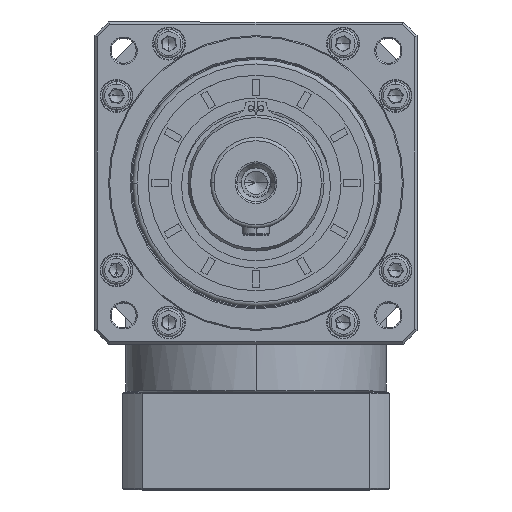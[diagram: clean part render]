
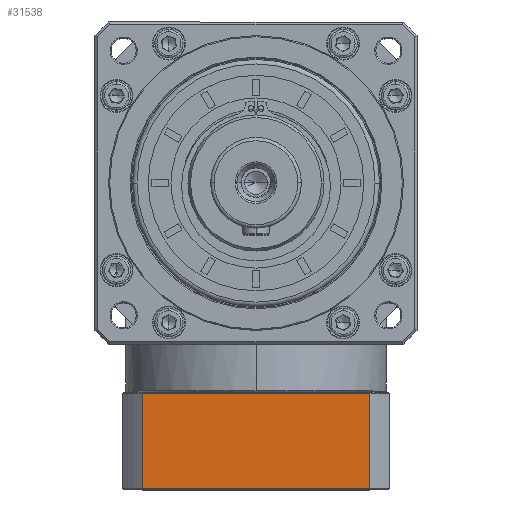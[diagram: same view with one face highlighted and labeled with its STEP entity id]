
A CAD part, top view. The second image highlights one B-rep face of the part: STEP entity #31538.
In plain terms, the highlighted planar face has unit normal (0, 0, 1).
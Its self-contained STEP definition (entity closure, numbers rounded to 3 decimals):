
#1443 = LINE ( 'NONE', #91648, #25766 ) ;
#19284 = ORIENTED_EDGE ( 'NONE', *, *, #21728, .F. ) ;
#21728 = EDGE_CURVE ( 'NONE', #38444, #126305, #1443, .T. ) ;
#25766 = VECTOR ( 'NONE', #64438, 1000. ) ;
#31538 = ADVANCED_FACE ( 'NONE', ( #75605 ), #103379, .F. ) ;
#38444 = VERTEX_POINT ( 'NONE', #161439 ) ;
#39978 = VERTEX_POINT ( 'NONE', #144941 ) ;
#44073 = DIRECTION ( 'NONE',  ( -1., 0., 0. ) ) ;
#44509 = EDGE_CURVE ( 'NONE', #90655, #39978, #74911, .T. ) ;
#48985 = LINE ( 'NONE', #144404, #73366 ) ;
#60529 = EDGE_CURVE ( 'NONE', #126305, #90655, #138186, .T. ) ;
#64438 = DIRECTION ( 'NONE',  ( 0., 1., 0. ) ) ;
#71823 = VECTOR ( 'NONE', #143896, 1000. ) ;
#73366 = VECTOR ( 'NONE', #44073, 1000. ) ;
#74911 = LINE ( 'NONE', #137383, #90324 ) ;
#75605 = FACE_OUTER_BOUND ( 'NONE', #137344, .T. ) ;
#79896 = CARTESIAN_POINT ( 'NONE',  ( -245.974, -111.776, 45.007 ) ) ;
#81664 = DIRECTION ( 'NONE',  ( 0., -1., 0. ) ) ;
#90324 = VECTOR ( 'NONE', #81664, 1000. ) ;
#90655 = VERTEX_POINT ( 'NONE', #171189 ) ;
#90958 = DIRECTION ( 'NONE',  ( 0., 0., -1. ) ) ;
#91648 = CARTESIAN_POINT ( 'NONE',  ( -245.974, -154.276, 45.007 ) ) ;
#93910 = EDGE_CURVE ( 'NONE', #39978, #38444, #48985, .T. ) ;
#94255 = AXIS2_PLACEMENT_3D ( 'NONE', #148571, #90958, #105848 ) ;
#102387 = CARTESIAN_POINT ( 'NONE',  ( -254.722, -111.776, 45.007 ) ) ;
#103379 = PLANE ( 'NONE',  #94255 ) ;
#105848 = DIRECTION ( 'NONE',  ( -1., 0., 0. ) ) ;
#116261 = ORIENTED_EDGE ( 'NONE', *, *, #60529, .F. ) ;
#126305 = VERTEX_POINT ( 'NONE', #79896 ) ;
#137344 = EDGE_LOOP ( 'NONE', ( #143774, #116261, #19284, #139141 ) ) ;
#137383 = CARTESIAN_POINT ( 'NONE',  ( -145.47, 110.12, 45.007 ) ) ;
#138186 = LINE ( 'NONE', #102387, #71823 ) ;
#139141 = ORIENTED_EDGE ( 'NONE', *, *, #93910, .F. ) ;
#143774 = ORIENTED_EDGE ( 'NONE', *, *, #44509, .F. ) ;
#143896 = DIRECTION ( 'NONE',  ( 1., 0., 0. ) ) ;
#144404 = CARTESIAN_POINT ( 'NONE',  ( -254.722, -153.776, 45.007 ) ) ;
#144941 = CARTESIAN_POINT ( 'NONE',  ( -145.47, -153.776, 45.007 ) ) ;
#148571 = CARTESIAN_POINT ( 'NONE',  ( -254.722, -154.276, 45.007 ) ) ;
#161439 = CARTESIAN_POINT ( 'NONE',  ( -245.974, -153.776, 45.007 ) ) ;
#171189 = CARTESIAN_POINT ( 'NONE',  ( -145.47, -111.776, 45.007 ) ) ;
